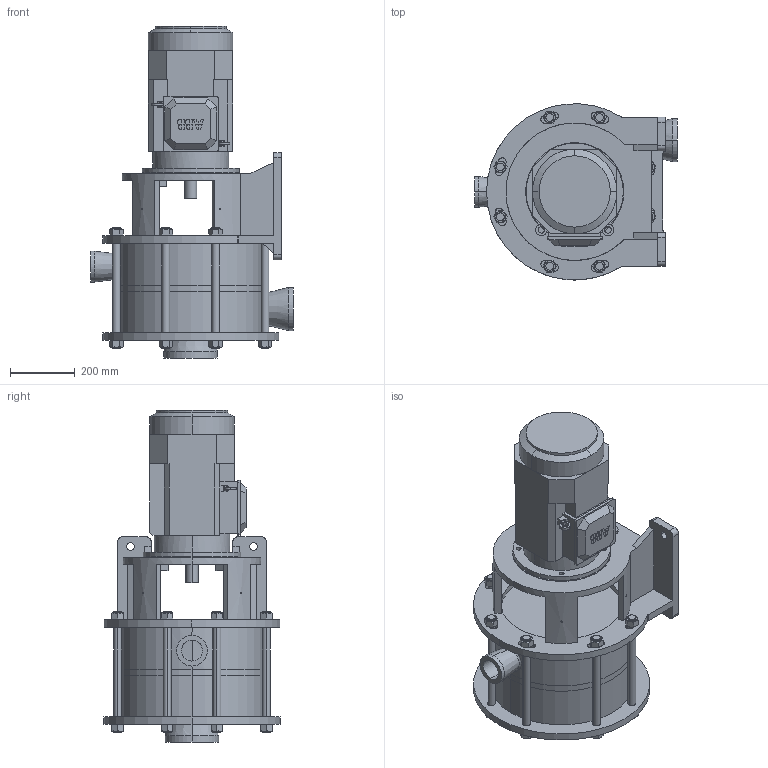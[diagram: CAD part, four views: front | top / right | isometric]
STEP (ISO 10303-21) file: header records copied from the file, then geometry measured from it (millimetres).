
FILE_DESCRIPTION((''),'2;1');
FILE_NAME('MJ100 Plastic--132 frame.stp','2010-08-04T14:30:02',(''),(''),'AutoCAD STEP 2000i','AutoCAD 2000i',', , ');
FILE_SCHEMA(('CONFIG_CONTROL_DESIGN'));
Length unit declared in the file: millimetre
Products named in the file (4): MJ100 PLASTIC--132 FRAME A; A2.4986 132 flange; M3BP160MLB4 (long); Any
Assembly tree (2 placements, depth 2):
  MJ100 PLASTIC--132 FRAME A
    A2.4986 132 flange
    M3BP160MLB4 (long)
  Any
Bounding box: 626 x 544 x 1024.5 mm (x, y, z)
Volume: 82918925.4 mm3; surface area: 3722460.9 mm2
Topology: 14 solids, 126 shells, 1391 faces, 3691 edges, 2388 vertices
Faces by surface type: cylinder 499, torus 448, plane 350, cone 78, bspline 16
Entity records: 45968 total; most frequent: CARTESIAN_POINT 9777, DIRECTION 8333, ORIENTED_EDGE 7382, EDGE_CURVE 3691, AXIS2_PLACEMENT_3D 3600, VERTEX_POINT 2388, CIRCLE 2218, EDGE_LOOP 1523
